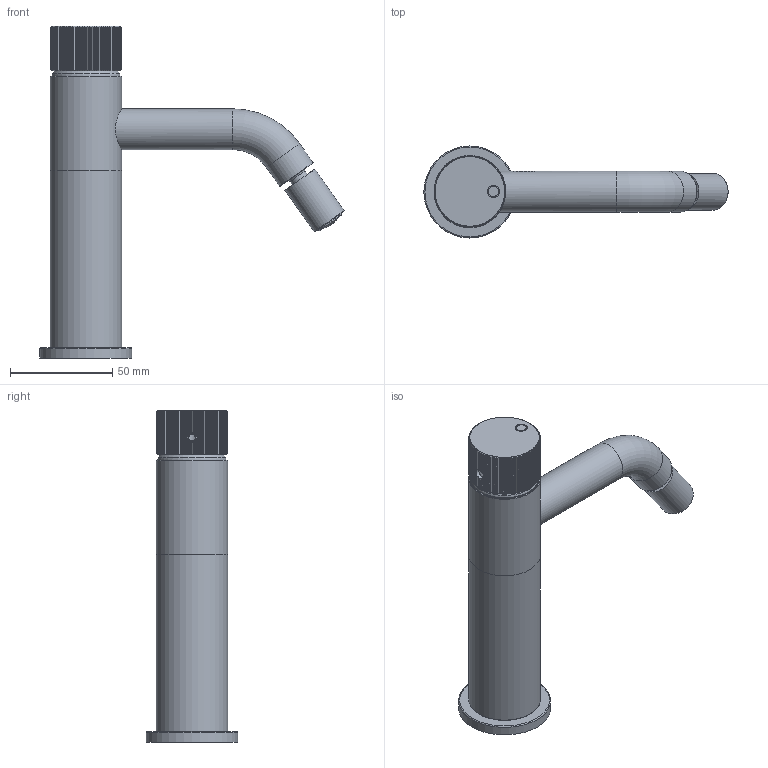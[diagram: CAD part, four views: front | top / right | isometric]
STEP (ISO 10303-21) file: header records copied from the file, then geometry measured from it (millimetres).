
FILE_DESCRIPTION(/* description */ ('Unknown'),/* implementation_level */ '2;1');
FILE_NAME(/* name */ 'RE021',/* time_stamp */ '2023-07-04T14:20:58+02:00',/* author */ ('Unknown'),/* organization */ ('Unknown'),/* preprocessor_version */ 'ST-DEVELOPER v18.102',/* originating_system */ 'Solid Edge',/* authorisation */ 'Unknown');
FILE_SCHEMA (('AUTOMOTIVE_DESIGN {1 0 10303 214 3 1 1}'));
Length unit declared in the file: millimetre
Products named in the file (12): RE021; RE020-05; RE020-02; RE020-01; RE020-03; RE020-09; RE021-01; RE008-001_oa_0; RE008-001-1; RE008-001-4; 44.3256.450_oa_1; 44.3256.450-1
Assembly tree (11 placements, depth 3):
  RE021
    RE020-05
    RE020-02
    RE020-01
    RE020-03
    RE020-09
    RE021-01
    RE008-001_oa_0
      RE008-001-1
      RE008-001-4
    44.3256.450_oa_1
      44.3256.450-1
Bounding box: 148.81 x 45 x 162.4 mm (x, y, z)
Volume: 70930.9 mm3; surface area: 59726.6 mm2
Topology: 9 solids, 9 shells, 806 faces, 2242 edges, 1486 vertices
Faces by surface type: plane 355, cone 223, cylinder 173, torus 30, bspline 23, sphere 2
Full cylindrical faces by diameter (mm): 3.2 x2, 3.242 x1, 5 x4, 6 x2, 6.5 x1, 6.647 x2, 8.917 x4, 9 x1, 10 x1, 11 x3, 12.196 x1, 13.464 x1, 13.5 x3, 13.75 x1, 14.577 x1, 14.9 x1, 15 x1, 15.033 x1, 15.218 x1, 15.229 x1, 15.417 x2, 15.5 x1, 16.376 x2, 16.5 x3, 16.75 x1, 16.8 x1, 18 x1, 18.2 x1, 20 x2, 22 x1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
Entity records: 31603 total; most frequent: CARTESIAN_POINT 7223, ORIENTED_EDGE 4018, DIRECTION 3787, EDGE_CURVE 2009, AXIS2_PLACEMENT_3D 1441, VERTEX_POINT 1404, FACE_BOUND 1005, EDGE_LOOP 1001
